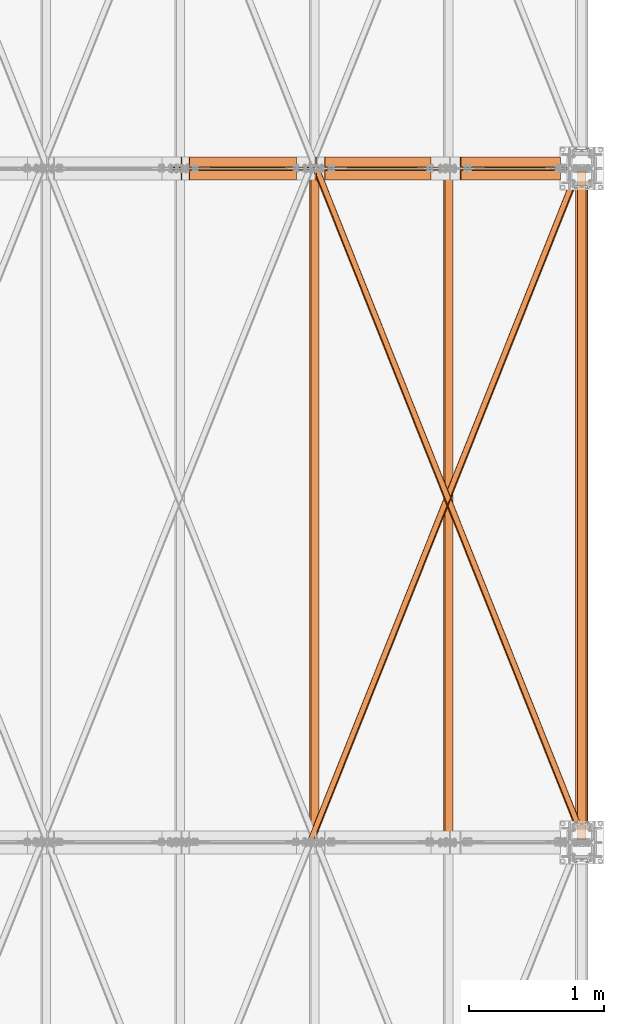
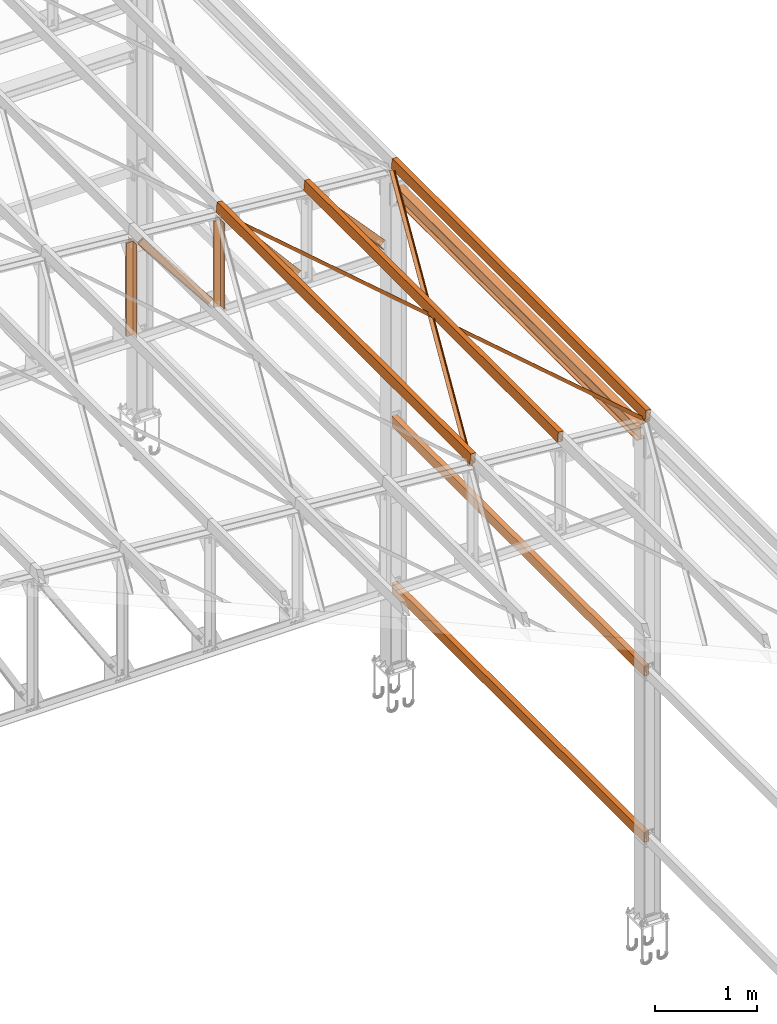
# One storey, part 242 of 251: 18 proxies.
"""IFC4 building model written with IfcOpenShell, lengths in metres."""

from ifc_helpers import new_model, si_unit, frame, frame_2d, origin_with_axes, origin_2d_with_axis, place, context, project, spatial, polyline, hollow_rectangle, i_section, l_section, outline, extrude, clip, halfspace, material, material_profile, profile_set, profile_usage, type_object, element, save


model = new_model("IFC4")

# Units and contexts
model_context = context("Model", 3, precision=1e-05, world=origin_with_axes())
ifc_project = project(units=[si_unit("LENGTHUNIT", "METRE"), si_unit("AREAUNIT", "SQUARE_METRE"), si_unit("VOLUMEUNIT", "CUBIC_METRE"), si_unit("MASSUNIT", "GRAM", prefix="KILO"), si_unit("TIMEUNIT", "SECOND"), si_unit("PLANEANGLEUNIT", "RADIAN"), si_unit("SOLIDANGLEUNIT", "STERADIAN"), si_unit("THERMODYNAMICTEMPERATUREUNIT", "DEGREE_CELSIUS")], contexts=[model_context])

# Site, building, storey
placement_1 = place(None, origin_with_axes())
site = spatial("IfcSite", under=ifc_project, at=placement_1, Name="Italia", CompositionType="ELEMENT")
building = spatial("IfcBuilding", under=site, at=placement_1, Name="Deposito", CompositionType="ELEMENT")
storey = spatial("IfcBuildingStorey", under=building, at=placement_1, Name="Storey 0", CompositionType="ELEMENT", Elevation=0.0)

# Proxies
ifc_material = material(Name="Acciaio", Category="Acciaio")
ifc_material_profile = material_profile(ifc_material, i_section(OverallWidth=0.2, OverallDepth=0.19, WebThickness=0.006, FlangeThickness=0.01, FilletRadius=0.018, at=origin_2d_with_axis()), Name="7 PILASTRO HEA200")
ifc_profile_set = profile_set([ifc_material_profile])
ifc_profile_usage_1 = profile_usage(ifc_profile_set, cardinal=1)
member_type_1 = type_object("IfcMemberType", Name="5 2L80x8", PredefinedType="MEMBER", material=ifc_profile_usage_1)
placement_2 = place(placement_1, origin_with_axes())
proxy_1_placement = place(placement_2, origin_with_axes())
element("IfcBuildingElementProxy", 1, at=proxy_1_placement, inside=storey, type_object=member_type_1, Name="100004", context=model_context, shape_type="SweptSolid", body=[
    extrude(outline(polyline([(0.0, 0.0), (-0.0799999, 0.0), (-0.0799999, 0.00799942), (-0.00799942, 0.00799942), (-0.00799942, 0.079998), (0.0, 0.079998), (0.0, 0.0)])), frame((19.0971, 14.995, 5.95199), z_axis=(0.675589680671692, 0.0, -0.737277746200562), x_axis=(0.0, 1.0, 0.0)), (0.0, 0.0, 1.0), 1.09364),
])
ifc_profile_usage_2 = profile_usage(ifc_profile_set, cardinal=1)
member_type_2 = type_object("IfcMemberType", Name="5 2L80x8", PredefinedType="MEMBER", material=ifc_profile_usage_2)
proxy_2_placement = place(placement_2, origin_with_axes())
element("IfcBuildingElementProxy", 2, at=proxy_2_placement, inside=storey, type_object=member_type_2, Name="100004", context=model_context, shape_type="SweptSolid", body=[
    extrude(outline(polyline([(0.0, 0.0), (0.00799942, 0.0), (0.00799942, -0.0719986), (0.0799999, -0.0719986), (0.0799999, -0.0799999), (0.0, -0.0799999), (0.0, 0.0)])), frame((19.1561, 15.005, 6.00604), z_axis=(0.675590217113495, 0.0, -0.737277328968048), x_axis=(0.0, 1.0, 0.0)), (0.0, 0.0, 1.0), 1.09364),
])
ifc_profile_usage_3 = profile_usage(ifc_profile_set, cardinal=1)
member_type_3 = type_object("IfcMemberType", Name="5 2L80x8", PredefinedType="MEMBER", material=ifc_profile_usage_3)
proxy_3_placement = place(placement_2, origin_with_axes())
element("IfcBuildingElementProxy", 3, at=proxy_3_placement, inside=storey, type_object=member_type_3, Name="110004", context=model_context, shape_type="SweptSolid", body=[
    extrude(outline(polyline([(0.0, 0.0), (-0.0799999, 0.0), (-0.0799999, 0.00799942), (-0.00799942, 0.00799942), (-0.00799942, 0.079998), (0.0, 0.079998), (0.0, 0.0)])), frame((18.0901, 14.995, 6.04221), z_axis=(0.646905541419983, 0.0, -0.762570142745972), x_axis=(0.0, 1.0, 0.0)), (0.0, 0.0, 1.0), 1.21365),
])
ifc_profile_usage_4 = profile_usage(ifc_profile_set, cardinal=1)
member_type_4 = type_object("IfcMemberType", Name="5 2L80x8", PredefinedType="MEMBER", material=ifc_profile_usage_4)
proxy_4_placement = place(placement_2, origin_with_axes())
element("IfcBuildingElementProxy", 4, at=proxy_4_placement, inside=storey, type_object=member_type_4, Name="110004", context=model_context, shape_type="SweptSolid", body=[
    extrude(outline(polyline([(0.0, 0.0), (0.00799942, 0.0), (0.00799942, -0.0720005), (0.0799999, -0.0720005), (0.0799999, -0.0799999), (0.0, -0.0799999), (0.0, 0.0)])), frame((18.1512, 15.005, 6.09396), z_axis=(0.646905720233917, 0.0, -0.762569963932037), x_axis=(0.0, 1.0, 0.0)), (0.0, 0.0, 1.0), 1.21365),
])
ifc_profile_usage_5 = profile_usage(ifc_profile_set, cardinal=1)
member_type_5 = type_object("IfcMemberType", Name="5 2L80x8", PredefinedType="MEMBER", material=ifc_profile_usage_5)
proxy_5_placement = place(placement_2, origin_with_axes())
element("IfcBuildingElementProxy", 5, at=proxy_5_placement, inside=storey, type_object=member_type_5, Name="60", context=model_context, shape_type="SweptSolid", body=[
    extrude(outline(polyline([(0.0, 0.0), (-0.0799999, 0.0), (-0.0799999, 0.00799942), (-0.00799942, 0.00799942), (-0.00799942, 0.0799999), (0.0, 0.0799999), (0.0, 0.0)])), frame((18.0301, 14.995, 5.06753), z_axis=(0.0, 0.0, 1.0), x_axis=(0.0, 1.0, 0.0)), (0.0, 0.0, 1.0), 1.03702),
])
ifc_profile_usage_6 = profile_usage(ifc_profile_set, cardinal=1)
member_type_6 = type_object("IfcMemberType", Name="5 2L80x8", PredefinedType="MEMBER", material=ifc_profile_usage_6)
proxy_6_placement = place(placement_2, origin_with_axes())
element("IfcBuildingElementProxy", 6, at=proxy_6_placement, inside=storey, type_object=member_type_6, Name="60", context=model_context, shape_type="SweptSolid", body=[
    extrude(outline(polyline([(0.0, 0.0), (0.00799942, 0.0), (0.00799942, -0.0720005), (0.0799999, -0.0720005), (0.0799999, -0.0799999), (0.0, -0.0799999), (0.0, 0.0)])), frame((17.9501, 15.005, 5.06753), z_axis=(0.0, 0.0, 1.0), x_axis=(0.0, 1.0, 0.0)), (0.0, 0.0, 1.0), 1.03702),
])
ifc_profile_usage_7 = profile_usage(ifc_profile_set, cardinal=1)
member_type_7 = type_object("IfcMemberType", Name="5 2L80x8", PredefinedType="MEMBER", material=ifc_profile_usage_7)
proxy_7_placement = place(placement_2, origin_with_axes())
element("IfcBuildingElementProxy", 7, at=proxy_7_placement, inside=storey, type_object=member_type_7, Name="120004", context=model_context, shape_type="SweptSolid", body=[
    extrude(outline(polyline([(0.0, 0.0), (-0.0799999, 0.0), (-0.0799999, 0.00799942), (-0.00799942, 0.00799942), (-0.00799942, 0.0799999), (0.0, 0.0799999), (0.0, 0.0)])), frame((17.0848, 14.995, 6.13218), z_axis=(0.619758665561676, 0.0, -0.784792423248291), x_axis=(0.0, 1.0, 0.0)), (0.0, 0.0, 1.0), 1.27867),
])
ifc_profile_usage_8 = profile_usage(ifc_profile_set, cardinal=1)
member_type_8 = type_object("IfcMemberType", Name="5 2L80x8", PredefinedType="MEMBER", material=ifc_profile_usage_8)
proxy_8_placement = place(placement_2, origin_with_axes())
element("IfcBuildingElementProxy", 8, at=proxy_8_placement, inside=storey, type_object=member_type_8, Name="120004", context=model_context, shape_type="SweptSolid", body=[
    extrude(outline(polyline([(0.0, 0.0), (0.00799942, 0.0), (0.00799942, -0.0720005), (0.0799999, -0.0720005), (0.0799999, -0.0799999), (0.0, -0.0799999), (0.0, 0.0)])), frame((17.1476, 15.005, 6.18176), z_axis=(0.619759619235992, 0.0, -0.784791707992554), x_axis=(0.0, 1.0, 0.0)), (0.0, 0.0, 1.0), 1.27867),
])
ifc_profile_usage_9 = profile_usage(ifc_profile_set, cardinal=1)
member_type_9 = type_object("IfcMemberType", Name="5 2L80x8", PredefinedType="MEMBER", material=ifc_profile_usage_9)
proxy_9_placement = place(placement_2, origin_with_axes())
element("IfcBuildingElementProxy", 9, at=proxy_9_placement, inside=storey, type_object=member_type_9, Name="59", context=model_context, shape_type="SweptSolid", body=[
    extrude(outline(polyline([(0.0, 0.0), (-0.0799999, 0.0), (-0.0799999, 0.00799942), (-0.00799942, 0.00799942), (-0.00799942, 0.0799999), (0.0, 0.0799999), (0.0, 0.0)])), frame((17.0339, 14.995, 5.06753), z_axis=(0.0, 0.0, 1.0), x_axis=(0.0, 1.0, 0.0)), (0.0, 0.0, 1.0), 1.12417),
])
ifc_profile_usage_10 = profile_usage(ifc_profile_set, cardinal=1)
member_type_10 = type_object("IfcMemberType", Name="5 2L80x8", PredefinedType="MEMBER", material=ifc_profile_usage_10)
proxy_10_placement = place(placement_2, origin_with_axes())
element("IfcBuildingElementProxy", 10, at=proxy_10_placement, inside=storey, type_object=member_type_10, Name="59", context=model_context, shape_type="SweptSolid", body=[
    extrude(outline(polyline([(0.0, 0.0), (0.00799942, 0.0), (0.00799942, -0.0720005), (0.0799999, -0.0720005), (0.0799999, -0.0799999), (0.0, -0.0799999), (0.0, 0.0)])), frame((16.9539, 15.005, 5.06753), z_axis=(0.0, 0.0, 1.0), x_axis=(0.0, 1.0, 0.0)), (0.0, 0.0, 1.0), 1.12417),
])
ifc_profile_usage_11 = profile_usage(ifc_profile_set, cardinal=8)
member_type_11 = type_object("IfcMemberType", Name="1 RHS120x60x8", PredefinedType="MEMBER", material=ifc_profile_usage_11)
proxy_11_placement = place(placement_2, origin_with_axes())
element("IfcBuildingElementProxy", 11, at=proxy_11_placement, inside=storey, type_object=member_type_11, Name="110035", context=model_context, shape_type="SweptSolid", body=[
    extrude(hollow_rectangle(XDim=0.06, YDim=0.12, WallThickness=0.008, at=frame_2d((0.0, 0.0), x_axis=(0.996194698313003, 0.087155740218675))), frame((18.0148, 10.0, 6.25655), z_axis=(0.0, 1.0, 0.0), x_axis=(-1.0, 0.0, 0.0)), (0.0, 0.0, 1.0), 5.0),
])
ifc_profile_usage_12 = profile_usage(ifc_profile_set, cardinal=8)
member_type_12 = type_object("IfcMemberType", Name="1 RHS120x60x8", PredefinedType="MEMBER", material=ifc_profile_usage_12)
proxy_12_placement = place(placement_2, origin_with_axes())
element("IfcBuildingElementProxy", 12, at=proxy_12_placement, inside=storey, type_object=member_type_12, Name="90037", context=model_context, shape_type="SweptSolid", body=[
    extrude(hollow_rectangle(XDim=0.06, YDim=0.12, WallThickness=0.008, at=frame_2d((0.0, 0.0), x_axis=(0.996194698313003, 0.087155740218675))), frame((20.0072, 10.0, 6.08224), z_axis=(0.0, 1.0, 0.0), x_axis=(-1.0, 0.0, 0.0)), (0.0, 0.0, 1.0), 5.0),
])
ifc_profile_usage_13 = profile_usage(ifc_profile_set, cardinal=8)
member_type_13 = type_object("IfcMemberType", Name="1 RHS120x60x8", PredefinedType="MEMBER", material=ifc_profile_usage_13)
proxy_13_placement = place(placement_2, origin_with_axes())
element("IfcBuildingElementProxy", 13, at=proxy_13_placement, inside=storey, type_object=member_type_13, Name="100036", context=model_context, shape_type="SweptSolid", body=[
    extrude(hollow_rectangle(XDim=0.06, YDim=0.12, WallThickness=0.008, at=frame_2d((0.0, 0.0), x_axis=(0.996194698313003, 0.087155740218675))), frame((19.011, 10.0, 6.16939), z_axis=(0.0, 1.0, 0.0), x_axis=(-1.0, 0.0, 0.0)), (0.0, 0.0, 1.0), 5.0),
])
ifc_profile_usage_14 = profile_usage(ifc_profile_set, cardinal=5)
member_type_14 = type_object("IfcMemberType", Name="1 RHS120x60x8", PredefinedType="MEMBER", material=ifc_profile_usage_14)
proxy_14_placement = place(placement_2, frame((20.0, 7.5, 1.0), z_axis=(0.0, 0.0, 1.0), x_axis=(1.0, 0.0, 0.0)))
element("IfcBuildingElementProxy", 14, at=proxy_14_placement, inside=storey, type_object=member_type_14, Name="280177", context=model_context, shape_type="Clipping", body=[
    clip(clip(extrude(hollow_rectangle(XDim=0.06, YDim=0.12, WallThickness=0.008, at=origin_2d_with_axis()), frame((0.0, 0.0, 0.0), z_axis=(0.0, 1.0, 0.0), x_axis=(-1.0, 0.0, 0.0)), (0.0, 0.0, 1.0), 10.0), halfspace(frame((-0.00519943, 2.518, 0.0112001), z_axis=(0.0, -1.0, 0.0), x_axis=(1.0, 0.0, 0.0)), False)), halfspace(frame((-0.00519943, 7.482, 0.0112001), z_axis=(0.0, -1.0, 0.0), x_axis=(1.0, 0.0, 0.0)), True)),
])
ifc_profile_usage_15 = profile_usage(ifc_profile_set, cardinal=5)
member_type_15 = type_object("IfcMemberType", Name="1 RHS120x60x8", PredefinedType="MEMBER", material=ifc_profile_usage_15)
proxy_15_placement = place(placement_2, frame((20.0, 7.5, 3.0), z_axis=(0.0, 0.0, 1.0), x_axis=(1.0, 0.0, 0.0)))
element("IfcBuildingElementProxy", 15, at=proxy_15_placement, inside=storey, type_object=member_type_15, Name="280107", context=model_context, shape_type="Clipping", body=[
    clip(clip(extrude(hollow_rectangle(XDim=0.06, YDim=0.12, WallThickness=0.008, at=origin_2d_with_axis()), frame((0.0, 0.0, 0.0), z_axis=(0.0, 1.0, 0.0), x_axis=(-1.0, 0.0, 0.0)), (0.0, 0.0, 1.0), 10.0), halfspace(frame((-0.00519943, 2.518, 0.0112), z_axis=(0.0, -1.0, 0.0), x_axis=(1.0, 0.0, 0.0)), False)), halfspace(frame((-0.00519943, 7.482, 0.0112), z_axis=(0.0, -1.0, 0.0), x_axis=(1.0, 0.0, 0.0)), True)),
])
ifc_profile_usage_16 = profile_usage(ifc_profile_set, cardinal=5)
member_type_16 = type_object("IfcMemberType", Name="9 ARCARECCI IPE180", PredefinedType="MEMBER", material=ifc_profile_usage_16)
proxy_16_placement = place(placement_2, frame((20.000001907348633, 7.5, 5.800000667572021), z_axis=(0.0, 0.0, 1.0), x_axis=(1.0, 0.0, 0.0)))
element("IfcBuildingElementProxy", 16, at=proxy_16_placement, inside=storey, type_object=member_type_16, Name="280037", context=model_context, shape_type="Clipping", body=[
    clip(clip(extrude(i_section(OverallWidth=0.091, OverallDepth=0.18, WebThickness=0.0053, FlangeThickness=0.008, FilletRadius=0.009, at=origin_2d_with_axis()), frame((0.0, 0.0, 0.0), z_axis=(0.0, 1.0, 0.0), x_axis=(-1.0, 0.0, 0.0)), (0.0, 0.0, 1.0), 10.0), halfspace(frame((0.0, 2.63, -9.53674e-07), z_axis=(0.0, -1.0, 0.0), x_axis=(1.0, 0.0, 0.0)), False)), halfspace(frame((-3.8147e-06, 7.37, 0.0), z_axis=(0.0, -1.0, 0.0), x_axis=(1.0, 0.0, 0.0)), True)),
])
ifc_profile_usage_17 = profile_usage(ifc_profile_set, cardinal=5)
member_type_17 = type_object("IfcMemberType", Name="11 CONTROVENTI COPERTURA L50x5", PredefinedType="MEMBER", material=ifc_profile_usage_17)
proxy_17_placement = place(placement_2, origin_with_axes())
element("IfcBuildingElementProxy", 17, at=proxy_17_placement, inside=storey, type_object=member_type_17, Name="130059", context=model_context, shape_type="SweptSolid", body=[
    extrude(l_section(Depth=0.05, Width=0.05, Thickness=0.005, FilletRadius=0.007, EdgeRadius=0.0035, at=origin_2d_with_axis()), frame((18.0262, 15.0068, 6.1943), z_axis=(0.369977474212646, -0.928476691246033, -0.03236885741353), x_axis=(0.928963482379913, 0.370171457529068, 0.0)), (0.0, 0.0, 1.0), 5.38516),
])
ifc_profile_usage_18 = profile_usage(ifc_profile_set, cardinal=5)
member_type_18 = type_object("IfcMemberType", Name="11 CONTROVENTI COPERTURA L50x5", PredefinedType="MEMBER", material=ifc_profile_usage_18)
proxy_18_placement = place(placement_2, origin_with_axes())
element("IfcBuildingElementProxy", 18, at=proxy_18_placement, inside=storey, type_object=member_type_18, Name="150045", context=model_context, shape_type="SweptSolid", body=[
    extrude(l_section(Depth=0.05, Width=0.05, Thickness=0.005, FilletRadius=0.007, EdgeRadius=0.0035, at=origin_2d_with_axis()), frame((17.9893, 10.0073, 6.1943), z_axis=(0.369977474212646, 0.928476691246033, -0.03236885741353), x_axis=(-0.928963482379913, 0.370171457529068, 0.0)), (0.0, 0.0, 1.0), 5.38516),
])

save(model, "model.ifc")
